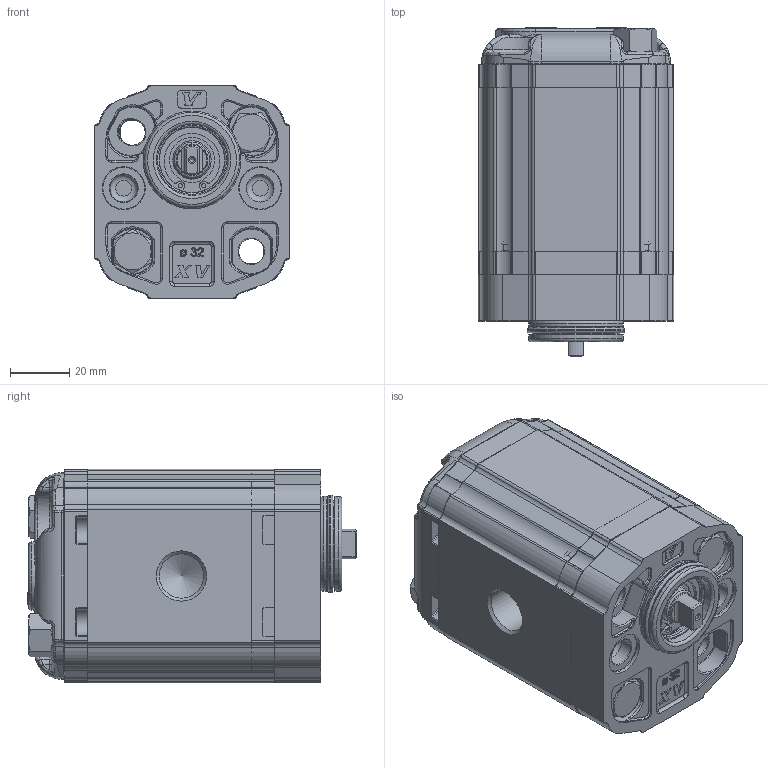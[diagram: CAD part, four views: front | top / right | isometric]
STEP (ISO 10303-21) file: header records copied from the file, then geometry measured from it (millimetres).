
FILE_DESCRIPTION( ( 'Unknown' ), '1' );
FILE_NAME( 'P:/montaggio_easy/output/STP/X1P3252DBBA.stp', 'Unknown', ( 'Unknown' ), ( 'Unknown' ), 'PSStep 14.0', 'Unknown', ' ' );
FILE_SCHEMA( ( 'AUTOMOTIVE_DESIGN { 1 0 10303 214 1 1 1 1 }' ) );
Length unit declared in the file: millimetre
Products named in the file (5): Assem1; X1P52; 1D; X1BBH63; XP140-A
Bounding box: 66 x 110.9 x 72 mm (x, y, z)
Surface area: 140121.2 mm2
Topology: 8 solids, 14 shells, 3670 faces, 9258 edges, 5862 vertices
Faces by surface type: plane 1644, cylinder 994, torus 370, extrusion 296, bspline 252, cone 106, sphere 8
Full cylindrical faces by diameter (mm): 1.447 x4, 1.5 x2, 2.5 x2, 3 x12, 8 x8, 8.5 x6, 9 x4, 9.3 x4, 10 x2, 10.5 x4, 11.965 x2, 12 x6, 12.923 x2, 14.5 x4, 14.95 x4, 15.115 x2, 15.181 x2, 19 x2, 20 x2, 22 x4, 22.2 x2, 23 x2, 24 x2, 29.4 x4, 32 x4, 32.96 x2
Entity records: 77114 total; most frequent: CARTESIAN_POINT 19445, ORIENTED_EDGE 8922, DIRECTION 8658, EDGE_CURVE 4461, AXIS2_PLACEMENT_3D 3015, VERTEX_POINT 2886, VECTOR 2628, LINE 2480
